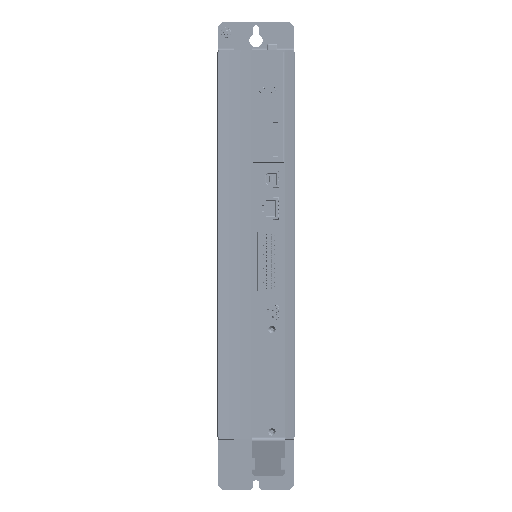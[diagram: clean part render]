
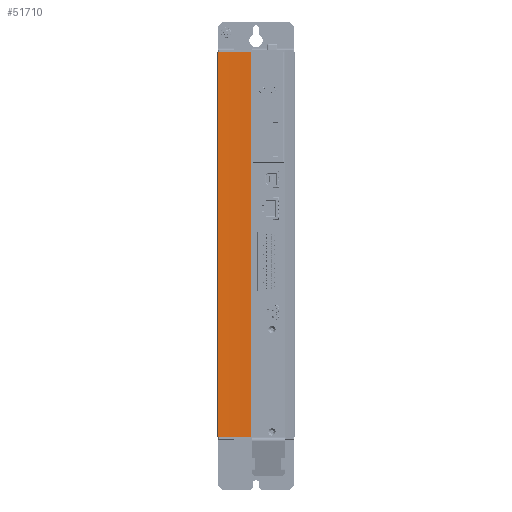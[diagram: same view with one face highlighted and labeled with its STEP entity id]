
A CAD part, left-side view. The second image highlights one B-rep face of the part: STEP entity #51710.
In plain terms, the highlighted cylindrical face has radius 290 mm (diameter 580 mm), a partial arc.
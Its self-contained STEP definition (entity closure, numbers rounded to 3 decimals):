
#1142=CYLINDRICAL_SURFACE('',#160096,290.);
#4717=CIRCLE('',#159946,290.);
#4860=CIRCLE('',#160090,290.);
#51710=ADVANCED_FACE('',(#61287),#1142,.F.);
#61287=FACE_OUTER_BOUND('',#72788,.T.);
#72788=EDGE_LOOP('',(#100752,#100753,#100754,#100755));
#100752=ORIENTED_EDGE('',*,*,#127727,.T.);
#100753=ORIENTED_EDGE('',*,*,#127743,.T.);
#100754=ORIENTED_EDGE('',*,*,#127493,.F.);
#100755=ORIENTED_EDGE('',*,*,#127744,.F.);
#113221=VERTEX_POINT('',#224286);
#113222=VERTEX_POINT('',#224288);
#113393=VERTEX_POINT('',#224693);
#113394=VERTEX_POINT('',#224695);
#127493=EDGE_CURVE('',#113221,#113222,#4717,.T.);
#127727=EDGE_CURVE('',#113394,#113393,#4860,.T.);
#127743=EDGE_CURVE('',#113393,#113222,#139175,.T.);
#127744=EDGE_CURVE('',#113394,#113221,#139176,.T.);
#139175=LINE('',#224722,#150745);
#139176=LINE('',#224723,#150746);
#150745=VECTOR('',#188135,1.);
#150746=VECTOR('',#188136,1.);
#159946=AXIS2_PLACEMENT_3D('',#224287,#187729,#187730);
#160090=AXIS2_PLACEMENT_3D('',#224694,#188108,#188109);
#160096=AXIS2_PLACEMENT_3D('',#224724,#188137,#188138);
#187729=DIRECTION('',(0.,0.,1.));
#187730=DIRECTION('',(1.,0.,0.));
#188108=DIRECTION('',(0.,0.,1.));
#188109=DIRECTION('',(-1.,0.,0.));
#188135=DIRECTION('',(0.,0.,-1.));
#188136=DIRECTION('',(0.,0.,-1.));
#188137=DIRECTION('',(0.,0.,-1.));
#188138=DIRECTION('',(1.,0.,0.));
#224286=CARTESIAN_POINT('',(-52.314,93.877,-15.308));
#224287=CARTESIAN_POINT('',(-342.29,90.127,-15.308));
#224288=CARTESIAN_POINT('',(-53.714,118.828,-15.308));
#224693=CARTESIAN_POINT('',(-53.714,118.828,276.692));
#224694=CARTESIAN_POINT('',(-342.29,90.127,276.692));
#224695=CARTESIAN_POINT('',(-52.314,93.877,276.692));
#224722=CARTESIAN_POINT('',(-53.714,118.828,335.363));
#224723=CARTESIAN_POINT('',(-52.314,93.877,302.729));
#224724=CARTESIAN_POINT('',(-342.29,90.127,335.363));
